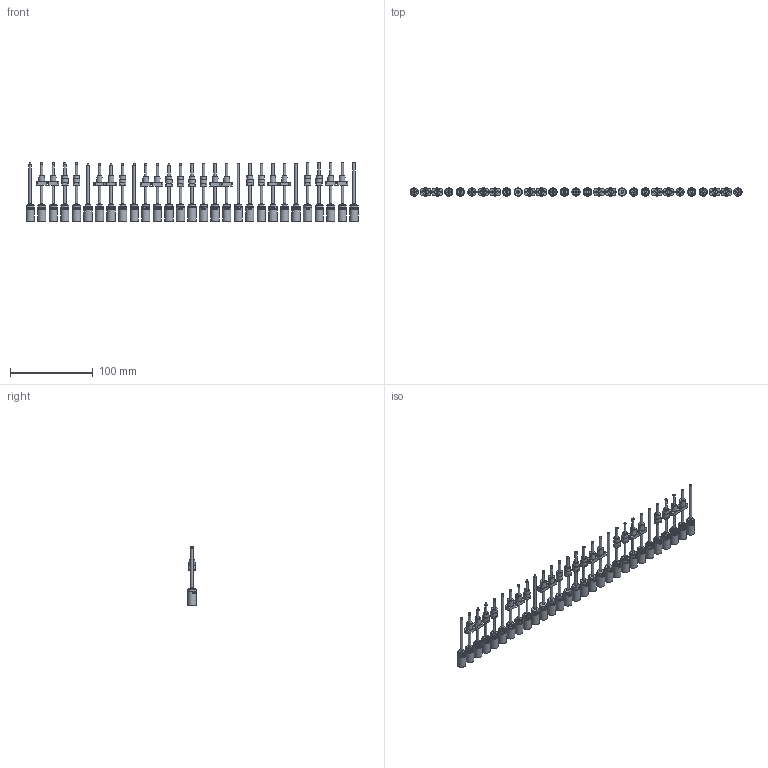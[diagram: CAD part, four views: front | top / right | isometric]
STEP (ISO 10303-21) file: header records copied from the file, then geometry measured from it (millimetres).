
FILE_DESCRIPTION(/* description */ (''),/* implementation_level */ '2;1');
FILE_NAME(/* name */ '10L-3stage_HL_standard_KWNx_KWS1_KFx.stp',/* time_stamp */ '2024-07-22T10:36:20+02:00',/* author */ ('DR. FRITZ FAULHABER GmbH & Co. KG'),/* organization */ ('DR. FRITZ FAULHABER GmbH & Co. KG'),/* preprocessor_version */ 'ST-DEVELOPER v19.3',/* originating_system */ 'SIEMENS PLM Software NX2212.4000',/* authorisation */ '');
FILE_SCHEMA (('AUTOMOTIVE_DESIGN { 1 0 10303 214 3 1 1 1 }'));
Length unit declared in the file: millimetre
Products named in the file (1): C_objects
Bounding box: 402 x 10 x 70.45 mm (x, y, z)
Volume: 63567.8 mm3; surface area: 46877 mm2
Topology: 29 solids, 29 shells, 3653 faces, 8952 edges, 5973 vertices
Faces by surface type: plane 2052, bspline 842, cylinder 710, cone 49
Full cylindrical faces by diameter (mm): 0.95 x36, 1.8 x24, 2 x14, 2.4 x29, 3 x52, 3.12 x29, 3.52 x29, 4.959 x29, 6 x29, 7 x42, 8 x11, 8.5 x10, 9.2 x10, 9.8 x29, 10 x68
Entity records: 153270 total; most frequent: CARTESIAN_POINT 60576, ORIENTED_EDGE 16680, DIRECTION 11366, EDGE_CURVE 8340, VERTEX_POINT 5857, EDGE_LOOP 4813, AXIS2_PLACEMENT_3D 4704, B_SPLINE_CURVE_WITH_KNOTS 4490
